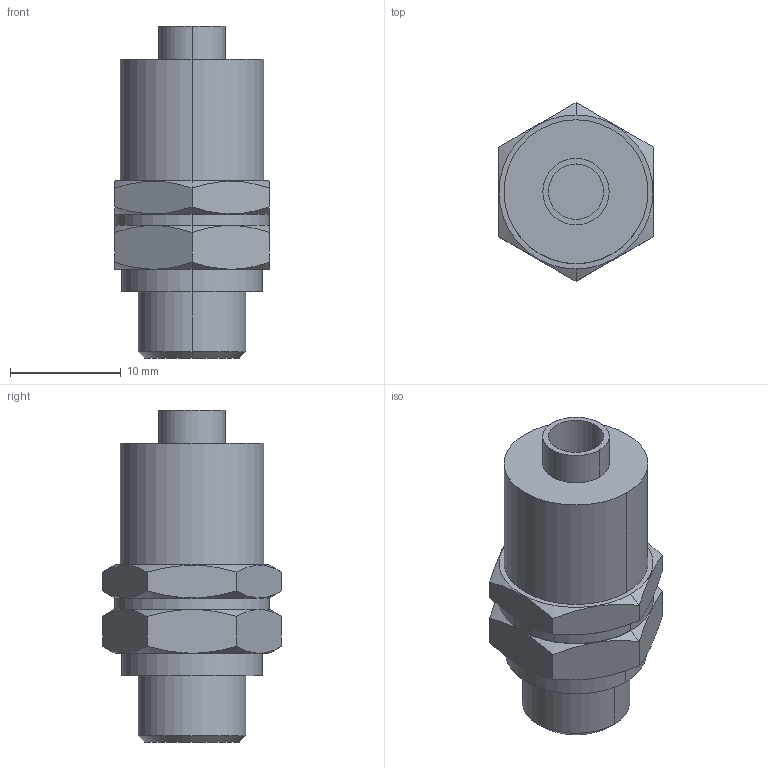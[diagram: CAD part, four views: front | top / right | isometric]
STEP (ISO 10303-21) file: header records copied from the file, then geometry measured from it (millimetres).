
FILE_DESCRIPTION((''),'2;1');
FILE_NAME('1823391038','2015-04-08T',('vol1hc'),(''),'PRO/ENGINEER BY PARAMETRIC TECHNOLOGY CORPORATION, 2009380','PRO/ENGINEER BY PARAMETRIC TECHNOLOGY CORPORATION, 2009380','');
FILE_SCHEMA(('CONFIG_CONTROL_DESIGN'));
Length unit declared in the file: millimetre
Products named in the file (1): 1823391038
Bounding box: 14 x 16.17 x 30 mm (x, y, z)
Volume: 3470.7 mm3; surface area: 1563.5 mm2
Topology: 1 solids, 1 shells, 43 faces, 92 edges, 58 vertices
Faces by surface type: plane 21, cylinder 12, cone 10
Entity records: 1574 total; most frequent: CARTESIAN_POINT 605, DIRECTION 188, ORIENTED_EDGE 184, EDGE_CURVE 92, AXIS2_PLACEMENT_3D 77, VERTEX_POINT 58, EDGE_LOOP 50, FACE_OUTER_BOUND 43
